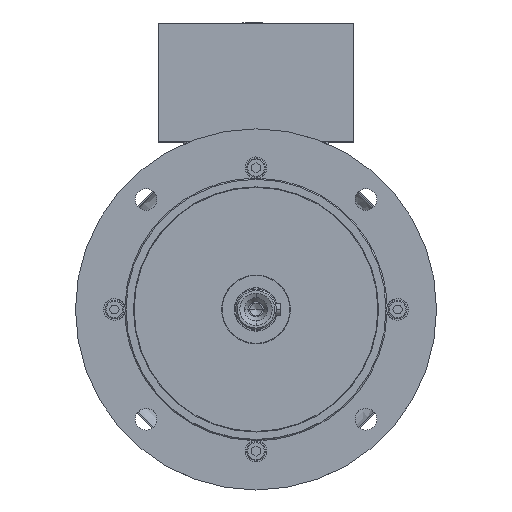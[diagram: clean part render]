
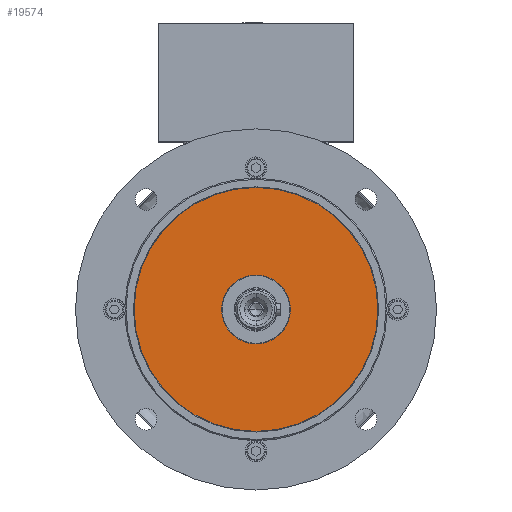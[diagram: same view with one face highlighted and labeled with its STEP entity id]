
A CAD part, top view. The second image highlights one B-rep face of the part: STEP entity #19574.
In plain terms, the highlighted planar face has unit normal (0, 0, 1).
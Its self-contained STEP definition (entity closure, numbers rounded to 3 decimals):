
#17 = DIRECTION ( 'NONE',  ( 1., 0., 0. ) ) ;
#94 = CARTESIAN_POINT ( 'NONE',  ( 0., 23.815, 139. ) ) ;
#1709 = AXIS2_PLACEMENT_3D ( 'NONE', #7748, #27379, #4600 ) ;
#3694 = CIRCLE ( 'NONE', #1709, 84.388 ) ;
#4280 = AXIS2_PLACEMENT_3D ( 'NONE', #16267, #38885, #17 ) ;
#4600 = DIRECTION ( 'NONE',  ( 1., 0., 0. ) ) ;
#7261 = EDGE_CURVE ( 'NONE', #35724, #9369, #3694, .T. ) ;
#7509 = VERTEX_POINT ( 'NONE', #16701 ) ;
#7748 = CARTESIAN_POINT ( 'NONE',  ( 0., 0., 139. ) ) ;
#8789 = AXIS2_PLACEMENT_3D ( 'NONE', #30649, #30224, #10986 ) ;
#9369 = VERTEX_POINT ( 'NONE', #37712 ) ;
#9529 = FACE_BOUND ( 'NONE', #37080, .T. ) ;
#10481 = ORIENTED_EDGE ( 'NONE', *, *, #20810, .T. ) ;
#10986 = DIRECTION ( 'NONE',  ( 1., 0., 0. ) ) ;
#13083 = FACE_OUTER_BOUND ( 'NONE', #33724, .T. ) ;
#13139 = PLANE ( 'NONE',  #16965 ) ;
#14369 = DIRECTION ( 'NONE',  ( 1., 0., 0. ) ) ;
#16267 = CARTESIAN_POINT ( 'NONE',  ( 0., 0., 139. ) ) ;
#16701 = CARTESIAN_POINT ( 'NONE',  ( -23.815, 0., 139. ) ) ;
#16965 = AXIS2_PLACEMENT_3D ( 'NONE', #94, #26276, #39090 ) ;
#17820 = CARTESIAN_POINT ( 'NONE',  ( 0., 0., 139. ) ) ;
#19574 = ADVANCED_FACE ( 'NONE', ( #9529, #13083 ), #13139, .T. ) ;
#20810 = EDGE_CURVE ( 'NONE', #9369, #35724, #25387, .T. ) ;
#24173 = DIRECTION ( 'NONE',  ( 0., 0., -1. ) ) ;
#24627 = EDGE_CURVE ( 'NONE', #7509, #36855, #33036, .T. ) ;
#25302 = CARTESIAN_POINT ( 'NONE',  ( 84.388, 0., 139. ) ) ;
#25387 = CIRCLE ( 'NONE', #4280, 84.388 ) ;
#26276 = DIRECTION ( 'NONE',  ( 0., 0., 1. ) ) ;
#26659 = AXIS2_PLACEMENT_3D ( 'NONE', #17820, #24173, #14369 ) ;
#27379 = DIRECTION ( 'NONE',  ( 0., 0., 1. ) ) ;
#27435 = EDGE_CURVE ( 'NONE', #36855, #7509, #41408, .T. ) ;
#29313 = ORIENTED_EDGE ( 'NONE', *, *, #24627, .T. ) ;
#30224 = DIRECTION ( 'NONE',  ( 0., 0., -1. ) ) ;
#30649 = CARTESIAN_POINT ( 'NONE',  ( 0., 0., 139. ) ) ;
#32974 = ORIENTED_EDGE ( 'NONE', *, *, #7261, .T. ) ;
#33036 = CIRCLE ( 'NONE', #8789, 23.815 ) ;
#33724 = EDGE_LOOP ( 'NONE', ( #32974, #10481 ) ) ;
#35724 = VERTEX_POINT ( 'NONE', #25302 ) ;
#36451 = ORIENTED_EDGE ( 'NONE', *, *, #27435, .T. ) ;
#36855 = VERTEX_POINT ( 'NONE', #41745 ) ;
#37080 = EDGE_LOOP ( 'NONE', ( #36451, #29313 ) ) ;
#37712 = CARTESIAN_POINT ( 'NONE',  ( -84.388, 0., 139. ) ) ;
#38885 = DIRECTION ( 'NONE',  ( 0., 0., 1. ) ) ;
#39090 = DIRECTION ( 'NONE',  ( 1., 0., 0. ) ) ;
#41408 = CIRCLE ( 'NONE', #26659, 23.815 ) ;
#41745 = CARTESIAN_POINT ( 'NONE',  ( 23.815, 0., 139. ) ) ;
